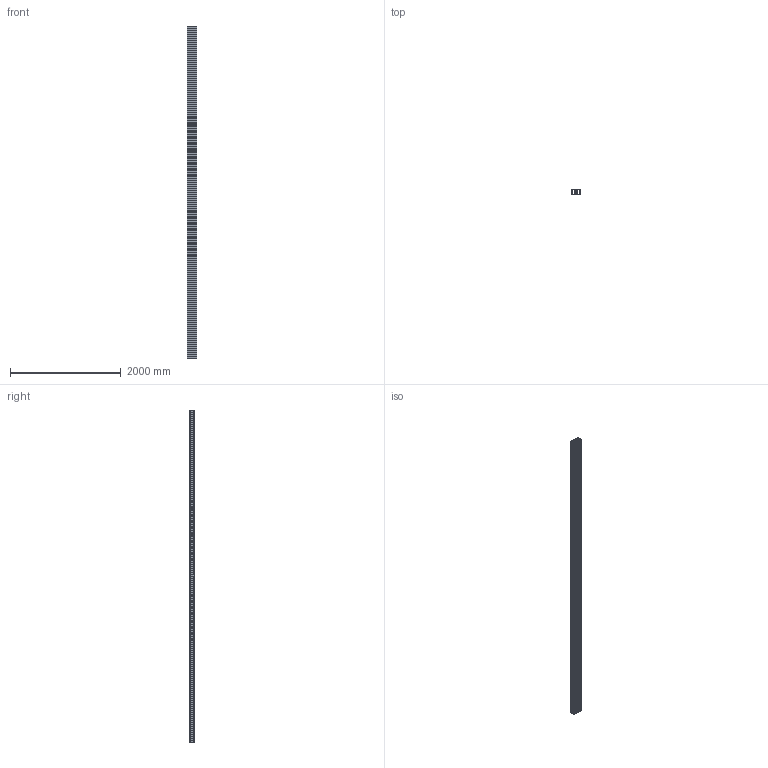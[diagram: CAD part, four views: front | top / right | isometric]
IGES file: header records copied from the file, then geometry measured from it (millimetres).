
Start section: SolidWorks IGES file using analytic representation for surfaces
Global section: file name: C:\Users\Ahmed\Desktop\Aluminium profiles\28-29-30-31\90x180 Slot 10.IGS; native system: SolidWorks 2016; preprocessor: SolidWorks 2016; author: Ahmed; date: 170810.020313; units: millimetre
Bounding box: 180 x 90 x 6000 mm (x, y, z)
Surface area: 15684867.8 mm2 (no closed solid volume)
Topology: 0 solids, 0 shells, 1114 faces, 9378 edges, 9378 vertices
Faces by surface type: bspline 758, revolution 356
